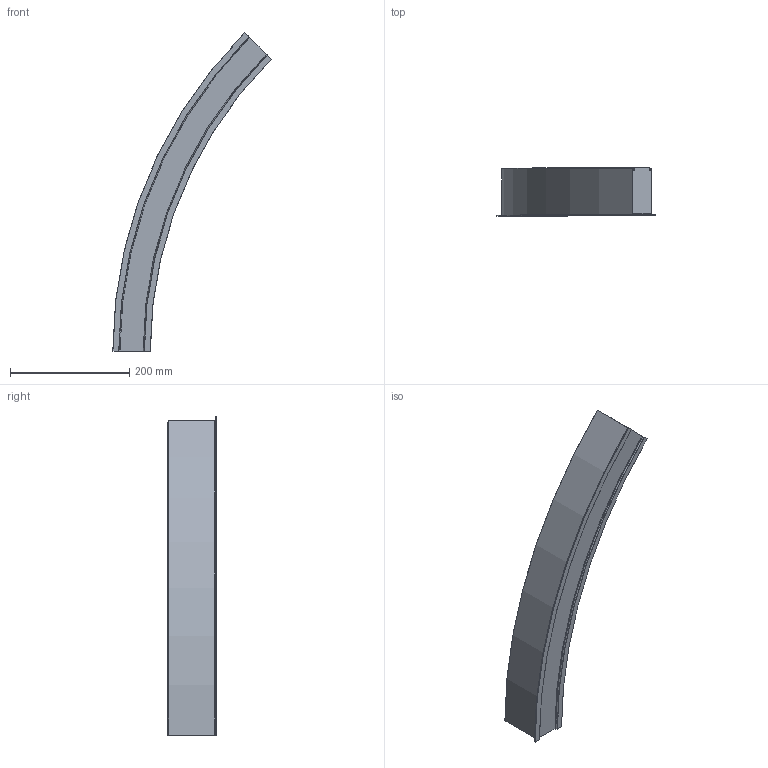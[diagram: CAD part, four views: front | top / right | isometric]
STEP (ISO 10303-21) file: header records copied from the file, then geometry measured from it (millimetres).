
FILE_DESCRIPTION (( 'STEP AP203' ), '1' );
FILE_NAME ('mLight_Swerve 47 Recessed_R725 mm 45 deg.STEP', '2020-04-01T10:09:53', ( '' ), ( '' ), 'SwSTEP 2.0', 'SolidWorks 2017', '' );
FILE_SCHEMA (( 'CONFIG_CONTROL_DESIGN' ));
Length unit declared in the file: millimetre
Products named in the file (1): mLight_Swerve 47 Recessed_R725 mm 45 deg
Bounding box: 266.12 x 80.63 x 534.93 mm (x, y, z)
Volume: 2067537.8 mm3; surface area: 182647.4 mm2
Topology: 1 solids, 1 shells, 54 faces, 156 edges, 104 vertices
Faces by surface type: torus 28, plane 12, cylinder 8, cone 6
Entity records: 1925 total; most frequent: DIRECTION 374, CARTESIAN_POINT 315, ORIENTED_EDGE 312, AXIS2_PLACEMENT_3D 163, EDGE_CURVE 156, CIRCLE 108, VERTEX_POINT 104, EDGE_LOOP 54
